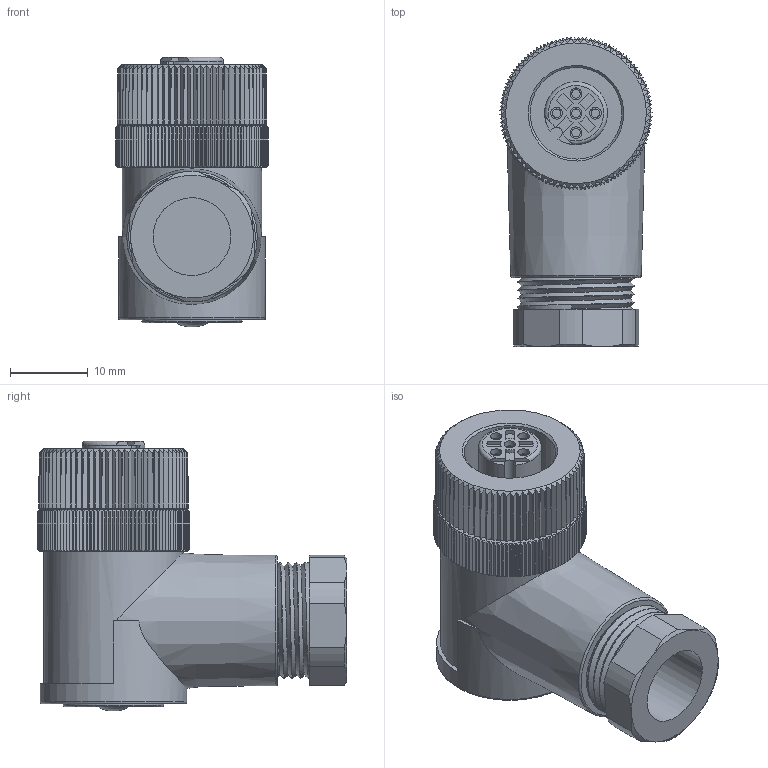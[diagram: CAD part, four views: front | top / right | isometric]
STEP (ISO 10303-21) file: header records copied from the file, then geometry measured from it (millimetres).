
FILE_DESCRIPTION((''),'2;1');
FILE_NAME('C:\TurckZip\B_8251-PG.stp','2009-07-08T08:14:24',('IKOROL'),(''),'Autodesk Inventor 2009','Autodesk Inventor 2009','');
FILE_SCHEMA(('CONFIG_CONTROL_DESIGN'));
Length unit declared in the file: millimetre
Products named in the file (1): Part1
Bounding box: 19.6 x 39.8 x 34.69 mm (x, y, z)
Volume: 7780.3 mm3; surface area: 8576.3 mm2
Topology: 3 solids, 3 shells, 1056 faces, 2531 edges, 1519 vertices
Faces by surface type: plane 463, cone 323, cylinder 258, bspline 8, torus 4
Full cylindrical faces by diameter (mm): 1.1 x5, 1.5 x5, 1.7 x10, 7.1 x1, 8.1 x1, 9.1 x1, 10 x1, 11.8 x1, 12.2 x1, 12.9 x1, 14.4 x5, 14.5 x1, 14.8 x1, 17.9 x5, 18 x1, 18.9 x1
Entity records: 32974 total; most frequent: CARTESIAN_POINT 9777, ORIENTED_EDGE 4906, DIRECTION 4507, EDGE_CURVE 2453, AXIS2_PLACEMENT_3D 1807, VERTEX_POINT 1495, EDGE_LOOP 1134, FACE_OUTER_BOUND 1047
